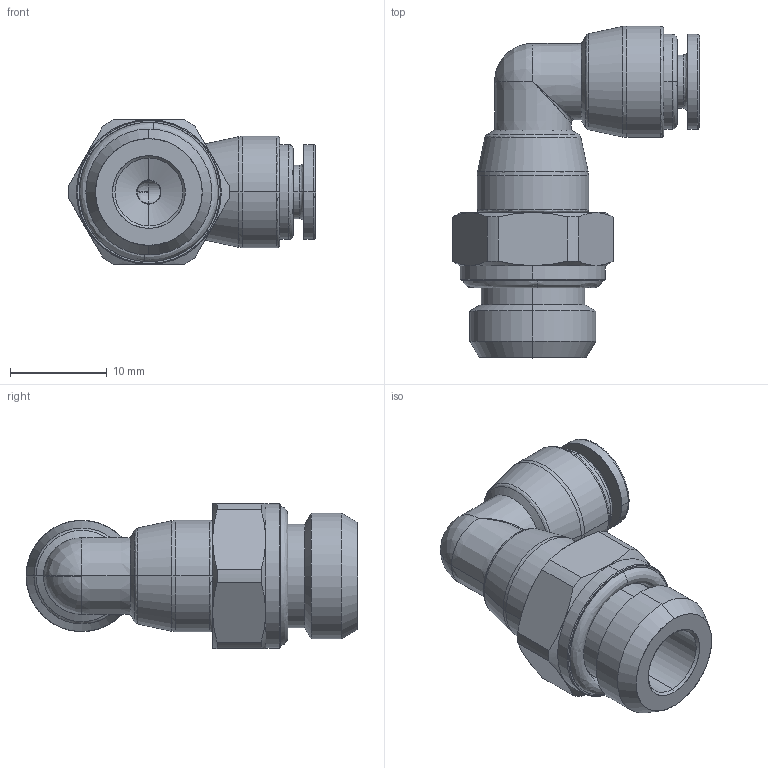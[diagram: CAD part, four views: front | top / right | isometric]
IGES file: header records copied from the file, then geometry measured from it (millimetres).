
Start section: SolidWorks IGES file using analytic representation for surfaces
Global section: file name: K:\Disegni Esecutivi\SERIE 53000\53000 Assiemi\53117X\Iges\53117X0005A.IGS; native system: SolidWorks 2020; preprocessor: SolidWorks 2020; author: cad06; date: 240509.162357; units: millimetre
Bounding box: 25.5 x 34.25 x 15 mm (x, y, z)
Surface area: 2735.2 mm2 (no closed solid volume)
Topology: 0 solids, 0 shells, 146 faces, 1420 edges, 1414 vertices
Faces by surface type: bspline 78, revolution 68
